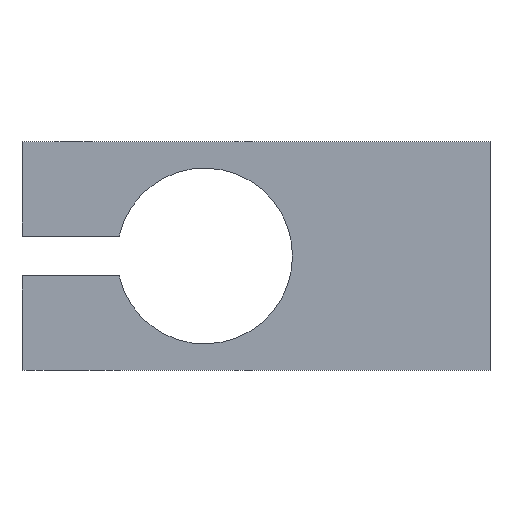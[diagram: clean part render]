
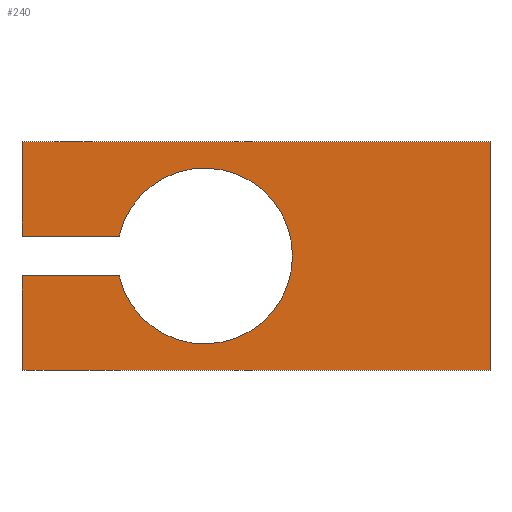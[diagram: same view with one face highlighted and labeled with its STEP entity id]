
A CAD part, front view. The second image highlights one B-rep face of the part: STEP entity #240.
In plain terms, the highlighted planar face has unit normal (0, -1, 0).
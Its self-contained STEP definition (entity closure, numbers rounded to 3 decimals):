
#11 = VERTEX_POINT ( 'NONE', #13 ) ;
#13 = CARTESIAN_POINT ( 'NONE',  ( -11.998, -5., -1.75 ) ) ;
#19 = CARTESIAN_POINT ( 'NONE',  ( 20.5, -5., -10. ) ) ;
#20 = FACE_OUTER_BOUND ( 'NONE', #528, .T. ) ;
#23 = DIRECTION ( 'NONE',  ( 0., 0., 1. ) ) ;
#32 = LINE ( 'NONE', #324, #301 ) ;
#37 = ORIENTED_EDGE ( 'NONE', *, *, #196, .F. ) ;
#63 = ORIENTED_EDGE ( 'NONE', *, *, #79, .T. ) ;
#64 = CARTESIAN_POINT ( 'NONE',  ( -20.5, -5., 1.75 ) ) ;
#69 = AXIS2_PLACEMENT_3D ( 'NONE', #221, #191, #471 ) ;
#79 = EDGE_CURVE ( 'NONE', #156, #11, #113, .T. ) ;
#89 = VECTOR ( 'NONE', #141, 1000. ) ;
#97 = EDGE_CURVE ( 'NONE', #600, #344, #106, .T. ) ;
#101 = ORIENTED_EDGE ( 'NONE', *, *, #161, .F. ) ;
#106 = LINE ( 'NONE', #255, #245 ) ;
#112 = DIRECTION ( 'NONE',  ( 0., 0., 1. ) ) ;
#113 = CIRCLE ( 'NONE', #189, 7.7 ) ;
#117 = LINE ( 'NONE', #19, #123 ) ;
#123 = VECTOR ( 'NONE', #366, 1000. ) ;
#141 = DIRECTION ( 'NONE',  ( -1., 0., 0. ) ) ;
#147 = EDGE_CURVE ( 'NONE', #344, #531, #208, .T. ) ;
#150 = ORIENTED_EDGE ( 'NONE', *, *, #422, .T. ) ;
#156 = VERTEX_POINT ( 'NONE', #591 ) ;
#161 = EDGE_CURVE ( 'NONE', #322, #600, #117, .T. ) ;
#163 = LINE ( 'NONE', #219, #367 ) ;
#169 = CARTESIAN_POINT ( 'NONE',  ( -20.5, -5., 10. ) ) ;
#172 = PLANE ( 'NONE',  #69 ) ;
#175 = DIRECTION ( 'NONE',  ( 1., 0., 0. ) ) ;
#176 = VERTEX_POINT ( 'NONE', #169 ) ;
#189 = AXIS2_PLACEMENT_3D ( 'NONE', #539, #299, #112 ) ;
#191 = DIRECTION ( 'NONE',  ( 0., 1., 0. ) ) ;
#196 = EDGE_CURVE ( 'NONE', #176, #322, #163, .T. ) ;
#199 = ORIENTED_EDGE ( 'NONE', *, *, #97, .F. ) ;
#208 = LINE ( 'NONE', #585, #340 ) ;
#219 = CARTESIAN_POINT ( 'NONE',  ( -20.5, -5., 10. ) ) ;
#221 = CARTESIAN_POINT ( 'NONE',  ( 0., -5., 0. ) ) ;
#231 = CARTESIAN_POINT ( 'NONE',  ( -20.5, -5., -10. ) ) ;
#240 = ADVANCED_FACE ( 'NONE', ( #20 ), #172, .F. ) ;
#245 = VECTOR ( 'NONE', #435, 1000. ) ;
#255 = CARTESIAN_POINT ( 'NONE',  ( -20.5, -5., -10. ) ) ;
#262 = EDGE_CURVE ( 'NONE', #427, #176, #565, .T. ) ;
#280 = ORIENTED_EDGE ( 'NONE', *, *, #601, .T. ) ;
#299 = DIRECTION ( 'NONE',  ( 0., 1., 0. ) ) ;
#301 = VECTOR ( 'NONE', #175, 1000. ) ;
#310 = VECTOR ( 'NONE', #561, 1000. ) ;
#322 = VERTEX_POINT ( 'NONE', #524 ) ;
#324 = CARTESIAN_POINT ( 'NONE',  ( -24., -5., 1.75 ) ) ;
#340 = VECTOR ( 'NONE', #23, 1000. ) ;
#344 = VERTEX_POINT ( 'NONE', #231 ) ;
#362 = CARTESIAN_POINT ( 'NONE',  ( -20.5, -5., -1.75 ) ) ;
#366 = DIRECTION ( 'NONE',  ( 0., 0., -1. ) ) ;
#367 = VECTOR ( 'NONE', #593, 1000. ) ;
#418 = CARTESIAN_POINT ( 'NONE',  ( 20.5, -5., -10. ) ) ;
#422 = EDGE_CURVE ( 'NONE', #11, #531, #573, .T. ) ;
#427 = VERTEX_POINT ( 'NONE', #64 ) ;
#435 = DIRECTION ( 'NONE',  ( -1., 0., 0. ) ) ;
#471 = DIRECTION ( 'NONE',  ( 0., 0., 1. ) ) ;
#472 = CARTESIAN_POINT ( 'NONE',  ( -24., -5., -1.75 ) ) ;
#484 = ORIENTED_EDGE ( 'NONE', *, *, #262, .F. ) ;
#524 = CARTESIAN_POINT ( 'NONE',  ( 20.5, -5., 10. ) ) ;
#528 = EDGE_LOOP ( 'NONE', ( #63, #150, #616, #199, #101, #37, #484, #280 ) ) ;
#531 = VERTEX_POINT ( 'NONE', #362 ) ;
#539 = CARTESIAN_POINT ( 'NONE',  ( -4.5, -5., 0. ) ) ;
#561 = DIRECTION ( 'NONE',  ( 0., 0., 1. ) ) ;
#565 = LINE ( 'NONE', #617, #310 ) ;
#573 = LINE ( 'NONE', #472, #89 ) ;
#585 = CARTESIAN_POINT ( 'NONE',  ( -20.5, -5., -10. ) ) ;
#591 = CARTESIAN_POINT ( 'NONE',  ( -11.998, -5., 1.75 ) ) ;
#593 = DIRECTION ( 'NONE',  ( 1., 0., 0. ) ) ;
#600 = VERTEX_POINT ( 'NONE', #418 ) ;
#601 = EDGE_CURVE ( 'NONE', #427, #156, #32, .T. ) ;
#616 = ORIENTED_EDGE ( 'NONE', *, *, #147, .F. ) ;
#617 = CARTESIAN_POINT ( 'NONE',  ( -20.5, -5., -10. ) ) ;
